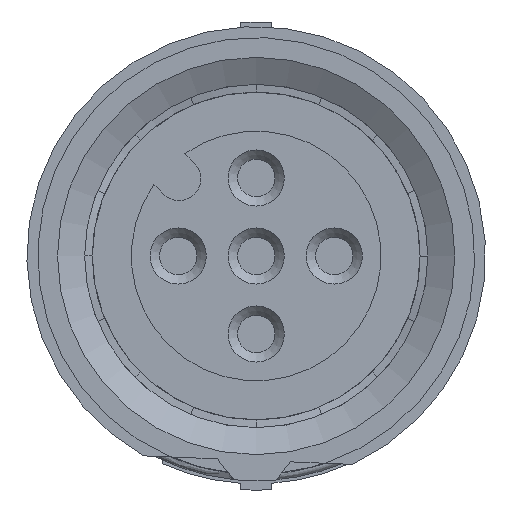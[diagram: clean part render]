
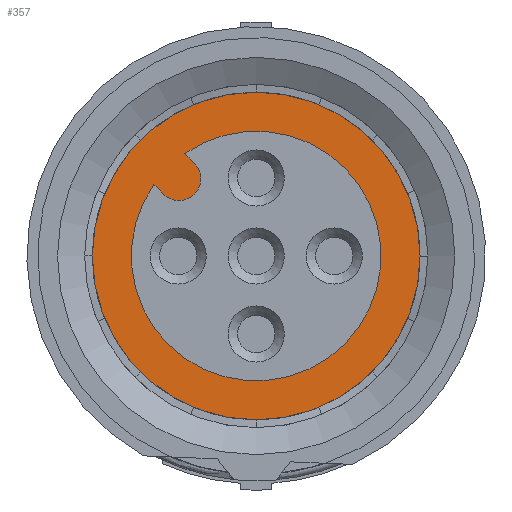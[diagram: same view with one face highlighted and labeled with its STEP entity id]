
A CAD part, left-side view. The second image highlights one B-rep face of the part: STEP entity #357.
In plain terms, the highlighted planar face has unit normal (-1, 0, 0).
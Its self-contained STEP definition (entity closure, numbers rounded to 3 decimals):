
#357 = ADVANCED_FACE( '', ( #741, #742 ), #743, .T. );
#741 = FACE_OUTER_BOUND( '', #1596, .T. );
#742 = FACE_BOUND( '', #1597, .T. );
#743 = PLANE( '', #1598 );
#1596 = EDGE_LOOP( '', ( #2608 ) );
#1597 = EDGE_LOOP( '', ( #2609, #2610, #2611, #2612 ) );
#1598 = AXIS2_PLACEMENT_3D( '', #2613, #2614, #2615 );
#2608 = ORIENTED_EDGE( '', *, *, #2934, .T. );
#2609 = ORIENTED_EDGE( '', *, *, #2697, .T. );
#2610 = ORIENTED_EDGE( '', *, *, #2805, .T. );
#2611 = ORIENTED_EDGE( '', *, *, #3031, .T. );
#2612 = ORIENTED_EDGE( '', *, *, #3042, .T. );
#2613 = CARTESIAN_POINT( '', ( 20.25, 28.901, -3.558 ) );
#2614 = DIRECTION( '', ( -1., 0., 0. ) );
#2615 = DIRECTION( '', ( 0., 0., -1. ) );
#2697 = EDGE_CURVE( '', #3108, #3113, #3115, .T. );
#2805 = EDGE_CURVE( '', #3113, #3297, #3299, .T. );
#2934 = EDGE_CURVE( '', #3489, #3489, #3490, .T. );
#3031 = EDGE_CURVE( '', #3297, #3611, #3612, .T. );
#3042 = EDGE_CURVE( '', #3611, #3108, #3624, .T. );
#3108 = VERTEX_POINT( '', #3892 );
#3113 = VERTEX_POINT( '', #3898 );
#3115 = CIRCLE( '', #3901, 0.7 );
#3297 = VERTEX_POINT( '', #5150 );
#3299 = LINE( '', #5153, #5154 );
#3489 = VERTEX_POINT( '', #6803 );
#3490 = CIRCLE( '', #6804, 5.25 );
#3611 = VERTEX_POINT( '', #7546 );
#3612 = CIRCLE( '', #7547, 4. );
#3624 = LINE( '', #7560, #7561 );
#3892 = CARTESIAN_POINT( '', ( 20.25, 33.47, -3.067 ) );
#3898 = CARTESIAN_POINT( '', ( 20.25, 32.48, -2.077 ) );
#3901 = AXIS2_PLACEMENT_3D( '', #7607, #7608, #7609 );
#5150 = CARTESIAN_POINT( '', ( 20.25, 32.79, -1.767 ) );
#5153 = CARTESIAN_POINT( '', ( 20.25, 27.206, -7.351 ) );
#5154 = VECTOR( '', #7716, 1000. );
#6803 = CARTESIAN_POINT( '', ( 20.25, 30.5, 0.203 ) );
#6804 = AXIS2_PLACEMENT_3D( '', #7810, #7811, #7812 );
#7546 = CARTESIAN_POINT( '', ( 20.25, 33.78, -2.757 ) );
#7547 = AXIS2_PLACEMENT_3D( '', #7882, #7883, #7884 );
#7560 = CARTESIAN_POINT( '', ( 20.25, 27.206, -9.33 ) );
#7561 = VECTOR( '', #7889, 1000. );
#7607 = CARTESIAN_POINT( '', ( 20.25, 32.975, -2.572 ) );
#7608 = DIRECTION( '', ( -1., 0., 0. ) );
#7609 = DIRECTION( '', ( 0., 0.707, 0.707 ) );
#7716 = DIRECTION( '', ( 0., 0.707, 0.707 ) );
#7810 = CARTESIAN_POINT( '', ( 20.25, 30.5, -5.047 ) );
#7811 = DIRECTION( '', ( -1., 0., 0. ) );
#7812 = DIRECTION( '', ( 0., 0., 1. ) );
#7882 = CARTESIAN_POINT( '', ( 20.25, 30.5, -5.047 ) );
#7883 = DIRECTION( '', ( 1., 0., 0. ) );
#7884 = DIRECTION( '', ( 0., 0., -1. ) );
#7889 = DIRECTION( '', ( 0., -0.707, -0.707 ) );
